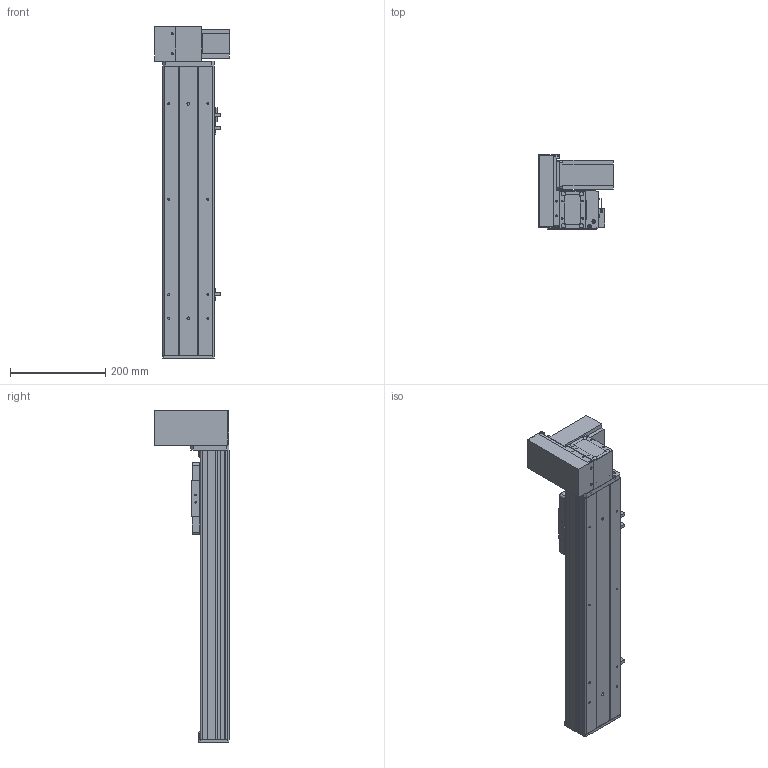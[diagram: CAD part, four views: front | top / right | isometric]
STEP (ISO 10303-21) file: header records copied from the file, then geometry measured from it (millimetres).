
FILE_DESCRIPTION (( 'STEP AP203' ), '1' );
FILE_NAME ('Y10CB-D90-S350-UL-P400W.STEP', '2020-02-16T07:04:31', ( '微软用户' ), ( '微软中国' ), 'SwSTEP 2.0', 'SolidWorks 2017', '' );
FILE_SCHEMA (( 'CONFIG_CONTROL_DESIGN' ));
Length unit declared in the file: millimetre
Products named in the file (18): Y10B--々湍喘謫眊--666; Y10CB- 掛极耜裔啣-毀---; 0CB-雄赽釱---; Y10CB-D90-S350-UL-P400W; Y10C---詩湍揤啣; 0Cb-俋欶---; 10CB9-掛极; Y10B-々湍喘謫眊楊擘啣--; 10CB-耜裔; 0B-萇儂楊擘啣; Y135C-陔俋离換覜結え-; san松下电机400不带刹车----; Y100-135俋离換覜ん--; 0B-源倛裔啣; Y10B-耜蚾蟀諉啣----; 0B-埴倛裔啣; 00B-俋欶BM--; 10CB-詩湍-
Assembly tree (21 placements, depth 2):
  Y10CB-D90-S350-UL-P400W
    0CB-雄赽釱---
    0Cb-俋欶---
    Y10B-々湍喘謫眊楊擘啣--
    0B-萇儂楊擘啣
    san松下电机400不带刹车----
    0B-源倛裔啣
    0B-埴倛裔啣
    10CB-詩湍-
    Y10CB- 掛极耜裔啣-毀---  x2
    Y10C---詩湍揤啣  x2
    10CB9-掛极
    10CB-耜裔
    Y135C-陔俋离換覜結え-
    Y100-135俋离換覜ん--  x3
    Y10B-耜蚾蟀諉啣----
    00B-俋欶BM--
    Y10B--々湍喘謫眊--666
Bounding box: 157 x 155.5 x 696 mm (x, y, z)
Volume: 2001539.5 mm3; surface area: 839386.7 mm2
Topology: 21 solids, 21 shells, 954 faces, 2523 edges, 1658 vertices
Faces by surface type: plane 471, cylinder 459, cone 24
Entity records: 29412 total; most frequent: CARTESIAN_POINT 5025, DIRECTION 4794, ORIENTED_EDGE 4516, EDGE_CURVE 2258, AXIS2_PLACEMENT_3D 1717, VERTEX_POINT 1484, LINE 1360, VECTOR 1360
